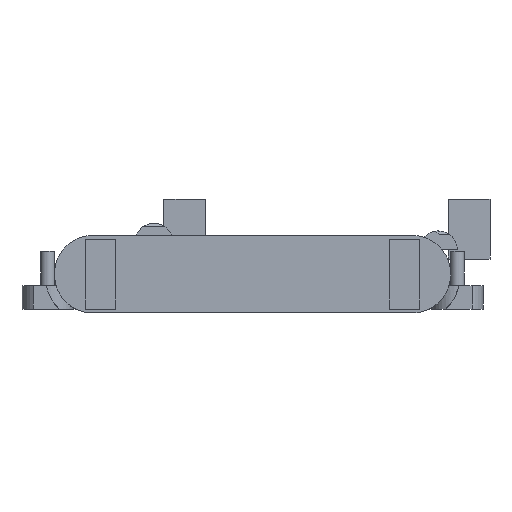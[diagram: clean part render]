
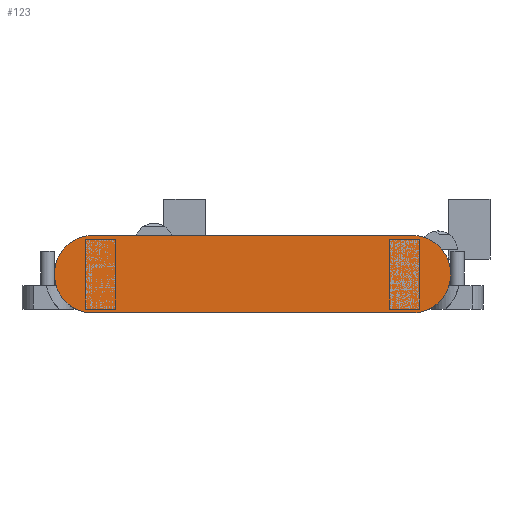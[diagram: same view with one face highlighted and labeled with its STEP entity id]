
A CAD part, left-side view. The second image highlights one B-rep face of the part: STEP entity #123.
In plain terms, the highlighted planar face has unit normal (-1, 0, 0).
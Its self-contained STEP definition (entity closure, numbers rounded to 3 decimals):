
#123 = ADVANCED_FACE('',(#124),#139,.F.);
#124 = FACE_BOUND('',#125,.F.);
#125 = EDGE_LOOP('',(#126,#166,#194,#223,#251,#284,#312,#345));
#126 = ORIENTED_EDGE('',*,*,#127,.F.);
#127 = EDGE_CURVE('',#128,#130,#132,.T.);
#128 = VERTEX_POINT('',#129);
#129 = CARTESIAN_POINT('',(-39.301,38.1,-12.1));
#130 = VERTEX_POINT('',#131);
#131 = CARTESIAN_POINT('',(-39.301,33.1,-17.1));
#132 = SURFACE_CURVE('',#133,(#138,#154),.PCURVE_S1.);
#133 = CIRCLE('',#134,5.);
#134 = AXIS2_PLACEMENT_3D('',#135,#136,#137);
#135 = CARTESIAN_POINT('',(-39.301,33.1,-12.1));
#136 = DIRECTION('',(-1.,0.,0.));
#137 = DIRECTION('',(0.,1.,0.));
#138 = PCURVE('',#139,#144);
#139 = PLANE('',#140);
#140 = AXIS2_PLACEMENT_3D('',#141,#142,#143);
#141 = CARTESIAN_POINT('',(-39.301,-14.1,-17.1));
#142 = DIRECTION('',(1.,0.,-0.));
#143 = DIRECTION('',(0.,0.,1.));
#144 = DEFINITIONAL_REPRESENTATION('',(#145),#153);
#145 = ( BOUNDED_CURVE() B_SPLINE_CURVE(2,(#146,#147,#148,#149,#150,#151
,#152),.UNSPECIFIED.,.T.,.F.) B_SPLINE_CURVE_WITH_KNOTS((1,2,2,2,2,1),(
    -2.094,0.,2.094,4.189,6.283,
8.378),.UNSPECIFIED.) CURVE() GEOMETRIC_REPRESENTATION_ITEM() 
RATIONAL_B_SPLINE_CURVE((1.,0.5,1.,0.5,1.,0.5,1.)) REPRESENTATION_ITEM(
  '') );
#146 = CARTESIAN_POINT('',(5.,-52.2));
#147 = CARTESIAN_POINT('',(-3.66,-52.2));
#148 = CARTESIAN_POINT('',(0.67,-44.7));
#149 = CARTESIAN_POINT('',(5.,-37.2));
#150 = CARTESIAN_POINT('',(9.33,-44.7));
#151 = CARTESIAN_POINT('',(13.66,-52.2));
#152 = CARTESIAN_POINT('',(5.,-52.2));
#153 = ( GEOMETRIC_REPRESENTATION_CONTEXT(2) 
PARAMETRIC_REPRESENTATION_CONTEXT() REPRESENTATION_CONTEXT('2D SPACE',''
  ) );
#154 = PCURVE('',#155,#160);
#155 = CYLINDRICAL_SURFACE('',#156,5.);
#156 = AXIS2_PLACEMENT_3D('',#157,#158,#159);
#157 = CARTESIAN_POINT('',(-39.301,33.1,-12.1));
#158 = DIRECTION('',(1.,0.,-0.));
#159 = DIRECTION('',(0.,1.,0.));
#160 = DEFINITIONAL_REPRESENTATION('',(#161),#165);
#161 = LINE('',#162,#163);
#162 = CARTESIAN_POINT('',(-0.,0.));
#163 = VECTOR('',#164,1.);
#164 = DIRECTION('',(-1.,0.));
#165 = ( GEOMETRIC_REPRESENTATION_CONTEXT(2) 
PARAMETRIC_REPRESENTATION_CONTEXT() REPRESENTATION_CONTEXT('2D SPACE',''
  ) );
#166 = ORIENTED_EDGE('',*,*,#167,.T.);
#167 = EDGE_CURVE('',#128,#168,#170,.T.);
#168 = VERTEX_POINT('',#169);
#169 = CARTESIAN_POINT('',(-39.301,38.1,-11.9));
#170 = SURFACE_CURVE('',#171,(#175,#182),.PCURVE_S1.);
#171 = LINE('',#172,#173);
#172 = CARTESIAN_POINT('',(-39.301,38.1,-17.1));
#173 = VECTOR('',#174,1.);
#174 = DIRECTION('',(0.,0.,1.));
#175 = PCURVE('',#139,#176);
#176 = DEFINITIONAL_REPRESENTATION('',(#177),#181);
#177 = LINE('',#178,#179);
#178 = CARTESIAN_POINT('',(0.,-52.2));
#179 = VECTOR('',#180,1.);
#180 = DIRECTION('',(1.,0.));
#181 = ( GEOMETRIC_REPRESENTATION_CONTEXT(2) 
PARAMETRIC_REPRESENTATION_CONTEXT() REPRESENTATION_CONTEXT('2D SPACE',''
  ) );
#182 = PCURVE('',#183,#188);
#183 = PLANE('',#184);
#184 = AXIS2_PLACEMENT_3D('',#185,#186,#187);
#185 = CARTESIAN_POINT('',(-39.301,38.1,-17.1));
#186 = DIRECTION('',(-0.,1.,0.));
#187 = DIRECTION('',(0.,0.,1.));
#188 = DEFINITIONAL_REPRESENTATION('',(#189),#193);
#189 = LINE('',#190,#191);
#190 = CARTESIAN_POINT('',(0.,0.));
#191 = VECTOR('',#192,1.);
#192 = DIRECTION('',(1.,0.));
#193 = ( GEOMETRIC_REPRESENTATION_CONTEXT(2) 
PARAMETRIC_REPRESENTATION_CONTEXT() REPRESENTATION_CONTEXT('2D SPACE',''
  ) );
#194 = ORIENTED_EDGE('',*,*,#195,.T.);
#195 = EDGE_CURVE('',#168,#196,#198,.T.);
#196 = VERTEX_POINT('',#197);
#197 = CARTESIAN_POINT('',(-39.301,33.1,-6.9));
#198 = SURFACE_CURVE('',#199,(#204,#211),.PCURVE_S1.);
#199 = CIRCLE('',#200,5.);
#200 = AXIS2_PLACEMENT_3D('',#201,#202,#203);
#201 = CARTESIAN_POINT('',(-39.301,33.1,-11.9));
#202 = DIRECTION('',(1.,0.,-0.));
#203 = DIRECTION('',(0.,0.,1.));
#204 = PCURVE('',#139,#205);
#205 = DEFINITIONAL_REPRESENTATION('',(#206),#210);
#206 = CIRCLE('',#207,5.);
#207 = AXIS2_PLACEMENT_2D('',#208,#209);
#208 = CARTESIAN_POINT('',(5.2,-47.2));
#209 = DIRECTION('',(1.,0.));
#210 = ( GEOMETRIC_REPRESENTATION_CONTEXT(2) 
PARAMETRIC_REPRESENTATION_CONTEXT() REPRESENTATION_CONTEXT('2D SPACE',''
  ) );
#211 = PCURVE('',#212,#217);
#212 = CYLINDRICAL_SURFACE('',#213,5.);
#213 = AXIS2_PLACEMENT_3D('',#214,#215,#216);
#214 = CARTESIAN_POINT('',(-39.301,33.1,-11.9));
#215 = DIRECTION('',(1.,0.,-0.));
#216 = DIRECTION('',(0.,1.,0.));
#217 = DEFINITIONAL_REPRESENTATION('',(#218),#222);
#218 = LINE('',#219,#220);
#219 = CARTESIAN_POINT('',(-4.712,0.));
#220 = VECTOR('',#221,1.);
#221 = DIRECTION('',(1.,0.));
#222 = ( GEOMETRIC_REPRESENTATION_CONTEXT(2) 
PARAMETRIC_REPRESENTATION_CONTEXT() REPRESENTATION_CONTEXT('2D SPACE',''
  ) );
#223 = ORIENTED_EDGE('',*,*,#224,.F.);
#224 = EDGE_CURVE('',#225,#196,#227,.T.);
#225 = VERTEX_POINT('',#226);
#226 = CARTESIAN_POINT('',(-39.301,-9.1,-6.9));
#227 = SURFACE_CURVE('',#228,(#232,#239),.PCURVE_S1.);
#228 = LINE('',#229,#230);
#229 = CARTESIAN_POINT('',(-39.301,-14.1,-6.9));
#230 = VECTOR('',#231,1.);
#231 = DIRECTION('',(-0.,1.,0.));
#232 = PCURVE('',#139,#233);
#233 = DEFINITIONAL_REPRESENTATION('',(#234),#238);
#234 = LINE('',#235,#236);
#235 = CARTESIAN_POINT('',(10.2,0.));
#236 = VECTOR('',#237,1.);
#237 = DIRECTION('',(0.,-1.));
#238 = ( GEOMETRIC_REPRESENTATION_CONTEXT(2) 
PARAMETRIC_REPRESENTATION_CONTEXT() REPRESENTATION_CONTEXT('2D SPACE',''
  ) );
#239 = PCURVE('',#240,#245);
#240 = PLANE('',#241);
#241 = AXIS2_PLACEMENT_3D('',#242,#243,#244);
#242 = CARTESIAN_POINT('',(-39.301,-14.1,-6.9));
#243 = DIRECTION('',(0.,0.,1.));
#244 = DIRECTION('',(1.,0.,-0.));
#245 = DEFINITIONAL_REPRESENTATION('',(#246),#250);
#246 = LINE('',#247,#248);
#247 = CARTESIAN_POINT('',(0.,0.));
#248 = VECTOR('',#249,1.);
#249 = DIRECTION('',(0.,1.));
#250 = ( GEOMETRIC_REPRESENTATION_CONTEXT(2) 
PARAMETRIC_REPRESENTATION_CONTEXT() REPRESENTATION_CONTEXT('2D SPACE',''
  ) );
#251 = ORIENTED_EDGE('',*,*,#252,.F.);
#252 = EDGE_CURVE('',#253,#225,#255,.T.);
#253 = VERTEX_POINT('',#254);
#254 = CARTESIAN_POINT('',(-39.301,-14.1,-11.9));
#255 = SURFACE_CURVE('',#256,(#261,#272),.PCURVE_S1.);
#256 = CIRCLE('',#257,5.);
#257 = AXIS2_PLACEMENT_3D('',#258,#259,#260);
#258 = CARTESIAN_POINT('',(-39.301,-9.1,-11.9));
#259 = DIRECTION('',(-1.,-0.,0.));
#260 = DIRECTION('',(0.,0.,1.));
#261 = PCURVE('',#139,#262);
#262 = DEFINITIONAL_REPRESENTATION('',(#263),#271);
#263 = ( BOUNDED_CURVE() B_SPLINE_CURVE(2,(#264,#265,#266,#267,#268,#269
,#270),.UNSPECIFIED.,.T.,.F.) B_SPLINE_CURVE_WITH_KNOTS((1,2,2,2,2,1),(
    -2.094,0.,2.094,4.189,6.283,
8.378),.UNSPECIFIED.) CURVE() GEOMETRIC_REPRESENTATION_ITEM() 
RATIONAL_B_SPLINE_CURVE((1.,0.5,1.,0.5,1.,0.5,1.)) REPRESENTATION_ITEM(
  '') );
#264 = CARTESIAN_POINT('',(10.2,-5.));
#265 = CARTESIAN_POINT('',(10.2,-13.66));
#266 = CARTESIAN_POINT('',(2.7,-9.33));
#267 = CARTESIAN_POINT('',(-4.8,-5.));
#268 = CARTESIAN_POINT('',(2.7,-0.67));
#269 = CARTESIAN_POINT('',(10.2,3.66));
#270 = CARTESIAN_POINT('',(10.2,-5.));
#271 = ( GEOMETRIC_REPRESENTATION_CONTEXT(2) 
PARAMETRIC_REPRESENTATION_CONTEXT() REPRESENTATION_CONTEXT('2D SPACE',''
  ) );
#272 = PCURVE('',#273,#278);
#273 = CYLINDRICAL_SURFACE('',#274,5.);
#274 = AXIS2_PLACEMENT_3D('',#275,#276,#277);
#275 = CARTESIAN_POINT('',(-39.301,-9.1,-11.9));
#276 = DIRECTION('',(1.,0.,-0.));
#277 = DIRECTION('',(0.,-1.,0.));
#278 = DEFINITIONAL_REPRESENTATION('',(#279),#283);
#279 = LINE('',#280,#281);
#280 = CARTESIAN_POINT('',(4.712,-0.));
#281 = VECTOR('',#282,1.);
#282 = DIRECTION('',(-1.,0.));
#283 = ( GEOMETRIC_REPRESENTATION_CONTEXT(2) 
PARAMETRIC_REPRESENTATION_CONTEXT() REPRESENTATION_CONTEXT('2D SPACE',''
  ) );
#284 = ORIENTED_EDGE('',*,*,#285,.F.);
#285 = EDGE_CURVE('',#286,#253,#288,.T.);
#286 = VERTEX_POINT('',#287);
#287 = CARTESIAN_POINT('',(-39.301,-14.1,-12.1));
#288 = SURFACE_CURVE('',#289,(#293,#300),.PCURVE_S1.);
#289 = LINE('',#290,#291);
#290 = CARTESIAN_POINT('',(-39.301,-14.1,-17.1));
#291 = VECTOR('',#292,1.);
#292 = DIRECTION('',(0.,0.,1.));
#293 = PCURVE('',#139,#294);
#294 = DEFINITIONAL_REPRESENTATION('',(#295),#299);
#295 = LINE('',#296,#297);
#296 = CARTESIAN_POINT('',(0.,0.));
#297 = VECTOR('',#298,1.);
#298 = DIRECTION('',(1.,0.));
#299 = ( GEOMETRIC_REPRESENTATION_CONTEXT(2) 
PARAMETRIC_REPRESENTATION_CONTEXT() REPRESENTATION_CONTEXT('2D SPACE',''
  ) );
#300 = PCURVE('',#301,#306);
#301 = PLANE('',#302);
#302 = AXIS2_PLACEMENT_3D('',#303,#304,#305);
#303 = CARTESIAN_POINT('',(-39.301,-14.1,-17.1));
#304 = DIRECTION('',(-0.,1.,0.));
#305 = DIRECTION('',(0.,0.,1.));
#306 = DEFINITIONAL_REPRESENTATION('',(#307),#311);
#307 = LINE('',#308,#309);
#308 = CARTESIAN_POINT('',(0.,0.));
#309 = VECTOR('',#310,1.);
#310 = DIRECTION('',(1.,0.));
#311 = ( GEOMETRIC_REPRESENTATION_CONTEXT(2) 
PARAMETRIC_REPRESENTATION_CONTEXT() REPRESENTATION_CONTEXT('2D SPACE',''
  ) );
#312 = ORIENTED_EDGE('',*,*,#313,.F.);
#313 = EDGE_CURVE('',#314,#286,#316,.T.);
#314 = VERTEX_POINT('',#315);
#315 = CARTESIAN_POINT('',(-39.301,-9.1,-17.1));
#316 = SURFACE_CURVE('',#317,(#322,#333),.PCURVE_S1.);
#317 = CIRCLE('',#318,5.);
#318 = AXIS2_PLACEMENT_3D('',#319,#320,#321);
#319 = CARTESIAN_POINT('',(-39.301,-9.1,-12.1));
#320 = DIRECTION('',(-1.,0.,-0.));
#321 = DIRECTION('',(0.,0.,-1.));
#322 = PCURVE('',#139,#323);
#323 = DEFINITIONAL_REPRESENTATION('',(#324),#332);
#324 = ( BOUNDED_CURVE() B_SPLINE_CURVE(2,(#325,#326,#327,#328,#329,#330
,#331),.UNSPECIFIED.,.T.,.F.) B_SPLINE_CURVE_WITH_KNOTS((1,2,2,2,2,1),(
    -2.094,0.,2.094,4.189,6.283,
8.378),.UNSPECIFIED.) CURVE() GEOMETRIC_REPRESENTATION_ITEM() 
RATIONAL_B_SPLINE_CURVE((1.,0.5,1.,0.5,1.,0.5,1.)) REPRESENTATION_ITEM(
  '') );
#325 = CARTESIAN_POINT('',(0.,-5.));
#326 = CARTESIAN_POINT('',(0.,3.66));
#327 = CARTESIAN_POINT('',(7.5,-0.67));
#328 = CARTESIAN_POINT('',(15.,-5.));
#329 = CARTESIAN_POINT('',(7.5,-9.33));
#330 = CARTESIAN_POINT('',(0.,-13.66));
#331 = CARTESIAN_POINT('',(0.,-5.));
#332 = ( GEOMETRIC_REPRESENTATION_CONTEXT(2) 
PARAMETRIC_REPRESENTATION_CONTEXT() REPRESENTATION_CONTEXT('2D SPACE',''
  ) );
#333 = PCURVE('',#334,#339);
#334 = CYLINDRICAL_SURFACE('',#335,5.);
#335 = AXIS2_PLACEMENT_3D('',#336,#337,#338);
#336 = CARTESIAN_POINT('',(-39.301,-9.1,-12.1));
#337 = DIRECTION('',(1.,0.,-0.));
#338 = DIRECTION('',(0.,-1.,0.));
#339 = DEFINITIONAL_REPRESENTATION('',(#340),#344);
#340 = LINE('',#341,#342);
#341 = CARTESIAN_POINT('',(1.571,0.));
#342 = VECTOR('',#343,1.);
#343 = DIRECTION('',(-1.,-0.));
#344 = ( GEOMETRIC_REPRESENTATION_CONTEXT(2) 
PARAMETRIC_REPRESENTATION_CONTEXT() REPRESENTATION_CONTEXT('2D SPACE',''
  ) );
#345 = ORIENTED_EDGE('',*,*,#346,.T.);
#346 = EDGE_CURVE('',#314,#130,#347,.T.);
#347 = SURFACE_CURVE('',#348,(#352,#359),.PCURVE_S1.);
#348 = LINE('',#349,#350);
#349 = CARTESIAN_POINT('',(-39.301,-14.1,-17.1));
#350 = VECTOR('',#351,1.);
#351 = DIRECTION('',(-0.,1.,0.));
#352 = PCURVE('',#139,#353);
#353 = DEFINITIONAL_REPRESENTATION('',(#354),#358);
#354 = LINE('',#355,#356);
#355 = CARTESIAN_POINT('',(0.,0.));
#356 = VECTOR('',#357,1.);
#357 = DIRECTION('',(0.,-1.));
#358 = ( GEOMETRIC_REPRESENTATION_CONTEXT(2) 
PARAMETRIC_REPRESENTATION_CONTEXT() REPRESENTATION_CONTEXT('2D SPACE',''
  ) );
#359 = PCURVE('',#360,#365);
#360 = PLANE('',#361);
#361 = AXIS2_PLACEMENT_3D('',#362,#363,#364);
#362 = CARTESIAN_POINT('',(-39.301,-14.1,-17.1));
#363 = DIRECTION('',(0.,0.,1.));
#364 = DIRECTION('',(1.,0.,-0.));
#365 = DEFINITIONAL_REPRESENTATION('',(#366),#370);
#366 = LINE('',#367,#368);
#367 = CARTESIAN_POINT('',(0.,0.));
#368 = VECTOR('',#369,1.);
#369 = DIRECTION('',(0.,1.));
#370 = ( GEOMETRIC_REPRESENTATION_CONTEXT(2) 
PARAMETRIC_REPRESENTATION_CONTEXT() REPRESENTATION_CONTEXT('2D SPACE',''
  ) );
